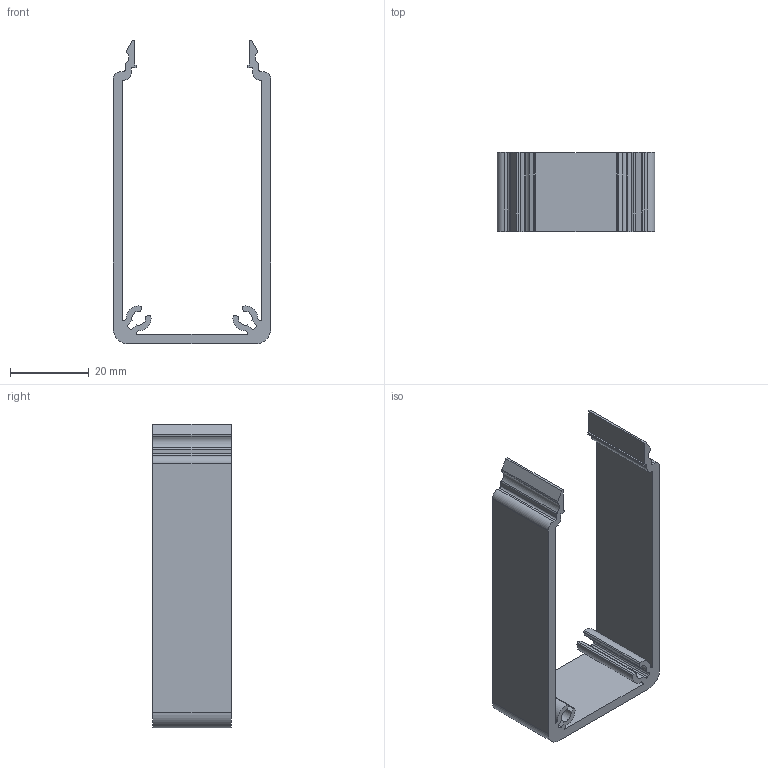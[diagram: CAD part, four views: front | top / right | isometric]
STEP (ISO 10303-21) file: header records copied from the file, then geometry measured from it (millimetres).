
FILE_DESCRIPTION(('STEP AP214'),'1');
FILE_NAME('cctmp_9E3D8430-7C08-4EA2-AEDA-C400CAD95F54_2023_05_03_09_36_22_0033_2240..stp','2023-05-03T07:36:22',('item Industrietechnik GmbH'),('CADClick - www.CADClick.com'),'Spatial InterOp 3D',' ','unknown authorization');
FILE_SCHEMA(('AUTOMOTIVE_DESIGN'));
Length unit declared in the file: millimetre
Products named in the file (2): item_0048739_Conduit Profile U 80x40 D40 SE_L=20; item_0048739_Conduit Profile U 80x40 D40 SE_L=20_1
Assembly tree (1 placements, depth 2):
  item_0048739_Conduit Profile U 80x40 D40 SE_L=20
    item_0048739_Conduit Profile U 80x40 D40 SE_L=20_1
Bounding box: 40 x 20 x 77 mm (x, y, z)
Volume: 10087.2 mm3; surface area: 9621.7 mm2
Topology: 1 solids, 1 shells, 76 faces, 222 edges, 148 vertices
Faces by surface type: plane 42, cylinder 34
Entity records: 3193 total; most frequent: CARTESIAN_POINT 448, DIRECTION 446, ORIENTED_EDGE 444, EDGE_CURVE 222, LINE 154, VECTOR 154, VERTEX_POINT 148, AXIS2_PLACEMENT_3D 146
